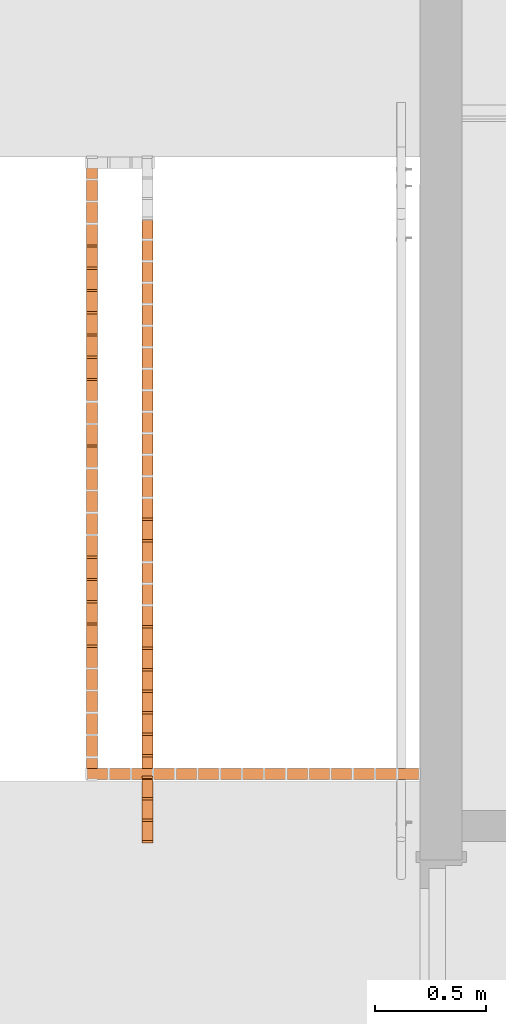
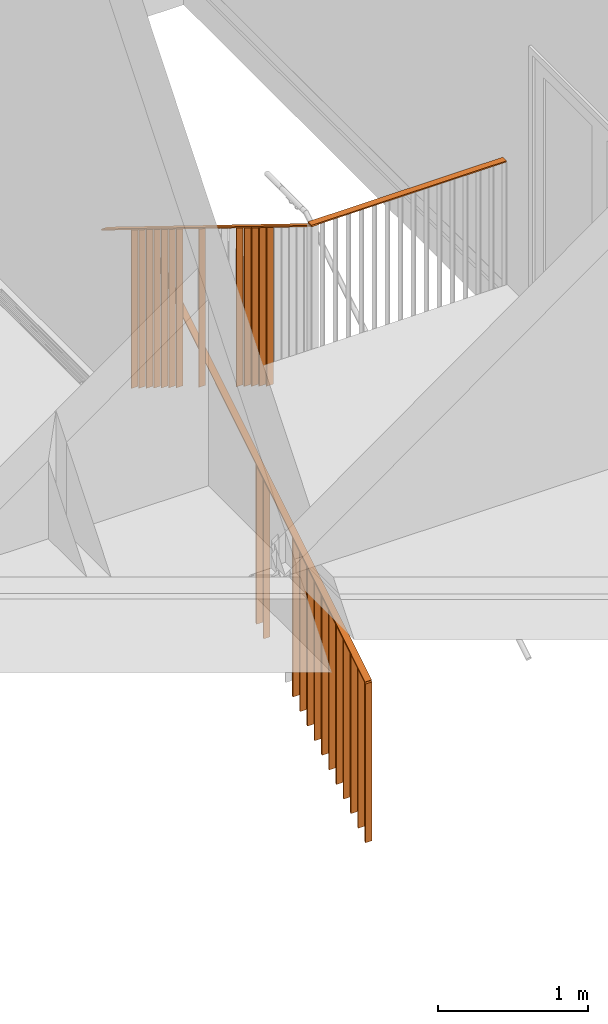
# One storey, part 91 of 100: 29 proxies, 3 elements without a shape of their own.
"""IFC2X3 building model written with IfcOpenShell, lengths in millimetres."""

from ifc_helpers import new_model, entity, si_unit, converted_unit, derived_unit, money_unit, direction, frame, origin_with_axes, place, context, subcontext, project, spatial, faceted_brep, material, type_object, element, aggregate, save


model = new_model("IFC2X3")

# Units and contexts
model_context = context("Model", 3, precision=0.01, world=origin_with_axes(), true_north=direction((0.0, 1.0)))
body_context = subcontext(model_context, "Body", "Model", "MODEL_VIEW")
ifc_project = project(units=[si_unit("LENGTHUNIT", "METRE", prefix="MILLI"), si_unit("AREAUNIT", "SQUARE_METRE"), si_unit("VOLUMEUNIT", "CUBIC_METRE"), converted_unit("PLANEANGLEUNIT", "DEGREE", entity("IfcPlaneAngleMeasure", 0.0174532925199), si_unit("PLANEANGLEUNIT", "RADIAN"), dimensions=[0, 0, 0, 0, 0, 0, 0]), si_unit("SOLIDANGLEUNIT", "STERADIAN"), money_unit("EUR"), converted_unit("TIMEUNIT", "Year", entity("IfcTimeMeasure", 31556926.0), si_unit("TIMEUNIT", "SECOND"), dimensions=[0, 0, 1, 0, 0, 0, 0]), si_unit("MASSUNIT", "GRAM", prefix="KILO"), si_unit("THERMODYNAMICTEMPERATUREUNIT", "DEGREE_CELSIUS"), si_unit("LUMINOUSINTENSITYUNIT", "LUMEN"), si_unit("ENERGYUNIT", "JOULE", prefix="MEGA"), derived_unit("THERMALCONDUCTANCEUNIT", [(si_unit("POWERUNIT", "WATT"), 1), (si_unit("LENGTHUNIT", "METRE"), -1), (si_unit("THERMODYNAMICTEMPERATUREUNIT", "KELVIN"), -1)]), derived_unit("SPECIFICHEATCAPACITYUNIT", [(si_unit("ENERGYUNIT", "JOULE"), 1), (si_unit("MASSUNIT", "GRAM", prefix="KILO"), -1), (si_unit("THERMODYNAMICTEMPERATUREUNIT", "KELVIN"), -1)]), derived_unit("MASSDENSITYUNIT", [(si_unit("MASSUNIT", "GRAM", prefix="KILO"), 1), (si_unit("VOLUMEUNIT", "CUBIC_METRE"), -1)])], contexts=[model_context])

# Site, building, storey
site_placement = place(None, origin_with_axes())
site = spatial("IfcSite", under=ifc_project, at=site_placement, Name="Politse- ja Piirivalveameti ning Päästeameti ühishoone", CompositionType="ELEMENT")
building_placement = place(site_placement, origin_with_axes())
building = spatial("IfcBuilding", under=site, at=building_placement, Name="Politse- ja Piirivalveameti ning Päästeameti ühishoone", CompositionType="ELEMENT")
storey_placement = place(building_placement, frame((0.0, 0.0, 3800.0), z_axis=(0.0, 0.0, 1.0), x_axis=(1.0, 0.0, 0.0)))
storey = spatial("IfcBuildingStorey", under=building, at=storey_placement, Name="Teine korrus", CompositionType="ELEMENT", Elevation=3800.0)

# Railing, proxies
railing_type = type_object("IfcRailingType", Name="Railing Type", PredefinedType="NOTDEFINED")
railing_1_placement = place(storey_placement, frame((61660.557259, 19348.024656, -3925.83291166), z_axis=(0.0, 0.0, 1.0), x_axis=(-1.0, 0.0, 0.0)))
railing_1 = element("IfcRailing", 1, at=railing_1_placement, inside=storey, type_object=railing_type, Name="TREPIPIIR 1", PredefinedType="NOTDEFINED")
ifc_material = material(Name="Teras - Konstruktsioon")
building_element_proxy_type = type_object("IfcBuildingElementProxyType", Name="IfcBuildingElementProxy", PredefinedType="NOTDEFINED")
proxy_1_placement = place(railing_1_placement, frame((25.0, 2928.0725728, 0.0), z_axis=(0.0, 0.0, 1.0), x_axis=(-1.0, 0.0, 0.0)))
proxy_1 = element("IfcBuildingElementProxy", 2, at=proxy_1_placement, type_object=building_element_proxy_type, material=ifc_material, Name="PIIRDE POST - 001", context=body_context, shape_type="Brep", body=[
    faceted_brep([(-25.0, -5.0, -3.08185890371), (25.0, -5.0, -3.08185890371), (25.0, -5.0, 1286.9181411), (-25.0, -5.0, 1286.9181411), (-25.0, 5.0, 3.08185890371), (25.0, 5.0, 3.08185890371), (25.0, 5.0, 1293.0818589), (-25.0, 5.0, 1293.0818589)], [[[0, 1, 2, 3]], [[0, 4, 5, 1]], [[1, 5, 6, 2]], [[3, 2, 6, 7]], [[4, 0, 3, 7]], [[5, 4, 7, 6]]]),
])
proxy_2_placement = place(railing_1_placement, frame((25.0, 1525.5725728, 1273.07417596), z_axis=(0.0, 0.0, 1.0), x_axis=(-1.0, 0.0, 0.0)))
proxy_2 = element("IfcBuildingElementProxy", 3, at=proxy_2_placement, type_object=building_element_proxy_type, material=ifc_material, Name="Piirde Ülaosa - 001", context=body_context, shape_type="Brep", body=[
    faceted_brep([(-25.0, 1402.5, 1755.84866902), (-25.0, 1407.74706821, 1747.33583898), (-25.0, -1397.25293179, 18.4129939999), (-25.0, -1402.5, 26.9258240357), (25.0, 1402.5, 1755.84866902), (25.0, 1407.74706821, 1747.33583898), (25.0, -1397.25293179, 18.4129939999), (25.0, -1402.5, 26.9258240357)], [[[0, 1, 2, 3]], [[0, 4, 5, 1]], [[1, 5, 6, 2]], [[3, 2, 6, 7]], [[4, 0, 3, 7]], [[5, 4, 7, 6]]]),
])
proxy_3_placement = place(railing_1_placement, frame((25.0, 1477.21050384, 894.270424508), z_axis=(0.0, 0.0, 1.0), x_axis=(-1.0, 0.0, 0.0)))
proxy_3 = element("IfcBuildingElementProxy", 4, at=proxy_3_placement, type_object=building_element_proxy_type, material=ifc_material, Name="BALUSTER - 001", context=body_context, shape_type="Brep", body=[
    faceted_brep([(-25.0, -5.0, -3.08185890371), (25.0, -5.0, -3.08185890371), (25.0, -5.0, 1286.91815365), (-25.0, -5.0, 1286.91815365), (-25.0, 5.0, 3.08185890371), (25.0, 5.0, 3.08185890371), (25.0, 5.0, 1293.08187146), (-25.0, 5.0, 1293.08187146)], [[[0, 1, 2, 3]], [[0, 4, 5, 1]], [[1, 5, 6, 2]], [[3, 2, 6, 7]], [[4, 0, 3, 7]], [[5, 4, 7, 6]]]),
])
proxy_4_placement = place(railing_1_placement, frame((25.0, 1573.93464177, 834.65239537), z_axis=(0.0, 0.0, 1.0), x_axis=(-1.0, 0.0, 0.0)))
proxy_4 = element("IfcBuildingElementProxy", 5, at=proxy_4_placement, type_object=building_element_proxy_type, material=ifc_material, Name="BALUSTER - 001", context=body_context, shape_type="Brep", body=[
    faceted_brep([(-25.0, -5.0, -3.08185890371), (25.0, -5.0, -3.08185890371), (25.0, -5.0, 1286.91815365), (-25.0, -5.0, 1286.91815365), (-25.0, 5.0, 3.08185890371), (25.0, 5.0, 3.08185890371), (25.0, 5.0, 1293.08187146), (-25.0, 5.0, 1293.08187146)], [[[0, 1, 2, 3]], [[0, 4, 5, 1]], [[1, 5, 6, 2]], [[3, 2, 6, 7]], [[4, 0, 3, 7]], [[5, 4, 7, 6]]]),
])
proxy_5_placement = place(railing_1_placement, frame((25.0, 1960.83119349, 596.180278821), z_axis=(0.0, 0.0, 1.0), x_axis=(-1.0, 0.0, 0.0)))
proxy_5 = element("IfcBuildingElementProxy", 6, at=proxy_5_placement, type_object=building_element_proxy_type, material=ifc_material, Name="BALUSTER - 001", context=body_context, shape_type="Brep", body=[
    faceted_brep([(-25.0, -5.0, -3.08185890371), (25.0, -5.0, -3.08185890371), (25.0, -5.0, 1286.91815365), (-25.0, -5.0, 1286.91815365), (-25.0, 5.0, 3.08185890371), (25.0, 5.0, 3.08185890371), (25.0, 5.0, 1293.08187146), (-25.0, 5.0, 1293.08187146)], [[[0, 1, 2, 3]], [[0, 4, 5, 1]], [[1, 5, 6, 2]], [[3, 2, 6, 7]], [[4, 0, 3, 7]], [[5, 4, 7, 6]]]),
])
proxy_6_placement = place(railing_1_placement, frame((25.0, 2057.55533143, 536.562249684), z_axis=(0.0, 0.0, 1.0), x_axis=(-1.0, 0.0, 0.0)))
proxy_6 = element("IfcBuildingElementProxy", 7, at=proxy_6_placement, type_object=building_element_proxy_type, material=ifc_material, Name="BALUSTER - 001", context=body_context, shape_type="Brep", body=[
    faceted_brep([(-25.0, -5.0, -3.08185890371), (25.0, -5.0, -3.08185890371), (25.0, -5.0, 1286.91815365), (-25.0, -5.0, 1286.91815365), (-25.0, 5.0, 3.08185890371), (25.0, 5.0, 3.08185890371), (25.0, 5.0, 1293.08187146), (-25.0, 5.0, 1293.08187146)], [[[0, 1, 2, 3]], [[0, 4, 5, 1]], [[1, 5, 6, 2]], [[3, 2, 6, 7]], [[4, 0, 3, 7]], [[5, 4, 7, 6]]]),
])
proxy_7_placement = place(railing_1_placement, frame((25.0, 2154.27946936, 476.944220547), z_axis=(0.0, 0.0, 1.0), x_axis=(-1.0, 0.0, 0.0)))
proxy_7 = element("IfcBuildingElementProxy", 8, at=proxy_7_placement, type_object=building_element_proxy_type, material=ifc_material, Name="BALUSTER - 001", context=body_context, shape_type="Brep", body=[
    faceted_brep([(-25.0, -5.0, -3.08185890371), (25.0, -5.0, -3.08185890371), (25.0, -5.0, 1286.91815365), (-25.0, -5.0, 1286.91815365), (-25.0, 5.0, 3.08185890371), (25.0, 5.0, 3.08185890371), (25.0, 5.0, 1293.08187146), (-25.0, 5.0, 1293.08187146)], [[[0, 1, 2, 3]], [[0, 4, 5, 1]], [[1, 5, 6, 2]], [[3, 2, 6, 7]], [[4, 0, 3, 7]], [[5, 4, 7, 6]]]),
])
proxy_8_placement = place(railing_1_placement, frame((25.0, 2251.00360729, 417.326191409), z_axis=(0.0, 0.0, 1.0), x_axis=(-1.0, 0.0, 0.0)))
proxy_8 = element("IfcBuildingElementProxy", 9, at=proxy_8_placement, type_object=building_element_proxy_type, material=ifc_material, Name="BALUSTER - 001", context=body_context, shape_type="Brep", body=[
    faceted_brep([(-25.0, -5.0, -3.08185890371), (25.0, -5.0, -3.08185890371), (25.0, -5.0, 1286.91815365), (-25.0, -5.0, 1286.91815365), (-25.0, 5.0, 3.08185890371), (25.0, 5.0, 3.08185890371), (25.0, 5.0, 1293.08187146), (-25.0, 5.0, 1293.08187146)], [[[0, 1, 2, 3]], [[0, 4, 5, 1]], [[1, 5, 6, 2]], [[3, 2, 6, 7]], [[4, 0, 3, 7]], [[5, 4, 7, 6]]]),
])
proxy_9_placement = place(railing_1_placement, frame((25.0, 2347.72774522, 357.708162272), z_axis=(0.0, 0.0, 1.0), x_axis=(-1.0, 0.0, 0.0)))
proxy_9 = element("IfcBuildingElementProxy", 10, at=proxy_9_placement, type_object=building_element_proxy_type, material=ifc_material, Name="BALUSTER - 001", context=body_context, shape_type="Brep", body=[
    faceted_brep([(-25.0, -5.0, -3.08185890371), (25.0, -5.0, -3.08185890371), (25.0, -5.0, 1286.91815365), (-25.0, -5.0, 1286.91815365), (-25.0, 5.0, 3.08185890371), (25.0, 5.0, 3.08185890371), (25.0, 5.0, 1293.08187146), (-25.0, 5.0, 1293.08187146)], [[[0, 1, 2, 3]], [[0, 4, 5, 1]], [[1, 5, 6, 2]], [[3, 2, 6, 7]], [[4, 0, 3, 7]], [[5, 4, 7, 6]]]),
])
proxy_10_placement = place(railing_1_placement, frame((25.0, 2444.45188315, 298.090133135), z_axis=(0.0, 0.0, 1.0), x_axis=(-1.0, 0.0, 0.0)))
proxy_10 = element("IfcBuildingElementProxy", 11, at=proxy_10_placement, type_object=building_element_proxy_type, material=ifc_material, Name="BALUSTER - 001", context=body_context, shape_type="Brep", body=[
    faceted_brep([(-25.0, -5.0, -3.08185890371), (25.0, -5.0, -3.08185890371), (25.0, -5.0, 1286.91815365), (-25.0, -5.0, 1286.91815365), (-25.0, 5.0, 3.08185890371), (25.0, 5.0, 3.08185890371), (25.0, 5.0, 1293.08187146), (-25.0, 5.0, 1293.08187146)], [[[0, 1, 2, 3]], [[0, 4, 5, 1]], [[1, 5, 6, 2]], [[3, 2, 6, 7]], [[4, 0, 3, 7]], [[5, 4, 7, 6]]]),
])
proxy_11_placement = place(railing_1_placement, frame((25.0, 2541.17602108, 238.472103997), z_axis=(0.0, 0.0, 1.0), x_axis=(-1.0, 0.0, 0.0)))
proxy_11 = element("IfcBuildingElementProxy", 12, at=proxy_11_placement, type_object=building_element_proxy_type, material=ifc_material, Name="BALUSTER - 001", context=body_context, shape_type="Brep", body=[
    faceted_brep([(-25.0, -5.0, -3.08185890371), (25.0, -5.0, -3.08185890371), (25.0, -5.0, 1286.91815365), (-25.0, -5.0, 1286.91815365), (-25.0, 5.0, 3.08185890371), (25.0, 5.0, 3.08185890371), (25.0, 5.0, 1293.08187146), (-25.0, 5.0, 1293.08187146)], [[[0, 1, 2, 3]], [[0, 4, 5, 1]], [[1, 5, 6, 2]], [[3, 2, 6, 7]], [[4, 0, 3, 7]], [[5, 4, 7, 6]]]),
])
proxy_12_placement = place(railing_1_placement, frame((25.0, 2637.90015901, 178.85407486), z_axis=(0.0, 0.0, 1.0), x_axis=(-1.0, 0.0, 0.0)))
proxy_12 = element("IfcBuildingElementProxy", 13, at=proxy_12_placement, type_object=building_element_proxy_type, material=ifc_material, Name="BALUSTER - 001", context=body_context, shape_type="Brep", body=[
    faceted_brep([(-25.0, -5.0, -3.08185890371), (25.0, -5.0, -3.08185890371), (25.0, -5.0, 1286.91815365), (-25.0, -5.0, 1286.91815365), (-25.0, 5.0, 3.08185890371), (25.0, 5.0, 3.08185890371), (25.0, 5.0, 1293.08187146), (-25.0, 5.0, 1293.08187146)], [[[0, 1, 2, 3]], [[0, 4, 5, 1]], [[1, 5, 6, 2]], [[3, 2, 6, 7]], [[4, 0, 3, 7]], [[5, 4, 7, 6]]]),
])
proxy_13_placement = place(railing_1_placement, frame((25.0, 2734.62429694, 119.236045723), z_axis=(0.0, 0.0, 1.0), x_axis=(-1.0, 0.0, 0.0)))
proxy_13 = element("IfcBuildingElementProxy", 14, at=proxy_13_placement, type_object=building_element_proxy_type, material=ifc_material, Name="BALUSTER - 001", context=body_context, shape_type="Brep", body=[
    faceted_brep([(-25.0, -5.0, -3.08185890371), (25.0, -5.0, -3.08185890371), (25.0, -5.0, 1286.91815365), (-25.0, -5.0, 1286.91815365), (-25.0, 5.0, 3.08185890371), (25.0, 5.0, 3.08185890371), (25.0, 5.0, 1293.08187146), (-25.0, 5.0, 1293.08187146)], [[[0, 1, 2, 3]], [[0, 4, 5, 1]], [[1, 5, 6, 2]], [[3, 2, 6, 7]], [[4, 0, 3, 7]], [[5, 4, 7, 6]]]),
])
proxy_14_placement = place(railing_1_placement, frame((25.0, 2831.34843487, 59.6180165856), z_axis=(0.0, 0.0, 1.0), x_axis=(-1.0, 0.0, 0.0)))
proxy_14 = element("IfcBuildingElementProxy", 15, at=proxy_14_placement, type_object=building_element_proxy_type, material=ifc_material, Name="BALUSTER - 001", context=body_context, shape_type="Brep", body=[
    faceted_brep([(-25.0, -5.0, -3.08185890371), (25.0, -5.0, -3.08185890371), (25.0, -5.0, 1286.91815365), (-25.0, -5.0, 1286.91815365), (-25.0, 5.0, 3.08185890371), (25.0, 5.0, 3.08185890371), (25.0, 5.0, 1293.08187146), (-25.0, 5.0, 1293.08187146)], [[[0, 1, 2, 3]], [[0, 4, 5, 1]], [[1, 5, 6, 2]], [[3, 2, 6, 7]], [[4, 0, 3, 7]], [[5, 4, 7, 6]]]),
])
aggregate(railing_1, [proxy_1, proxy_2, proxy_3, proxy_4, proxy_5, proxy_6, proxy_7, proxy_8, proxy_9, proxy_10, proxy_11, proxy_12, proxy_13, proxy_14])

railing_2_placement = place(storey_placement, frame((61360.5519118, 16576.8795104, -2027.27275421), z_axis=(0.0, 0.0, 1.0), x_axis=(1.0, 0.0, 0.0)))
railing_2 = element("IfcRailing", 16, at=railing_2_placement, inside=storey, type_object=railing_type, Name="TREPIPIIRE 4", PredefinedType="NOTDEFINED")
proxy_15_placement = place(railing_2_placement, frame((25.0, 1523.0725728, 1273.07417596), z_axis=(0.0, 0.0, 1.0), x_axis=(1.0, 0.0, 0.0)))
proxy_15 = element("IfcBuildingElementProxy", 17, at=proxy_15_placement, type_object=building_element_proxy_type, material=ifc_material, Name="Piirde Ülaosa - 001", context=body_context, shape_type="Brep", body=[
    faceted_brep([(25.0, -1400.0, 1754.19855131), (25.0, -1405.25022161, 1745.68766575), (25.0, 1394.74977839, 18.4149384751), (25.0, 1400.0, 26.9258240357), (-25.0, -1400.0, 1754.19855131), (-25.0, -1405.25022161, 1745.68766575), (-25.0, 1394.74977839, 18.4149384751), (-25.0, 1400.0, 26.9258240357)], [[[0, 1, 2, 3]], [[0, 4, 5, 1]], [[1, 5, 6, 2]], [[3, 2, 6, 7]], [[4, 0, 3, 7]], [[5, 4, 7, 6]]]),
])
proxy_16_placement = place(railing_2_placement, frame((25.0, 723.072572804, 1357.14284459), z_axis=(0.0, 0.0, 1.0), x_axis=(1.0, 0.0, 0.0)))
proxy_16 = element("IfcBuildingElementProxy", 18, at=proxy_16_placement, type_object=building_element_proxy_type, material=ifc_material, Name="BALUSTER - 001", context=body_context, shape_type="Brep", body=[
    faceted_brep([(25.0, 5.0, -3.08441558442), (-25.0, 5.0, -3.08441558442), (-25.0, 5.0, 1286.91559697), (25.0, 5.0, 1286.91559697), (25.0, -5.0, 3.08441558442), (-25.0, -5.0, 3.08441558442), (-25.0, -5.0, 1293.08442814), (25.0, -5.0, 1293.08442814)], [[[0, 1, 2, 3]], [[0, 4, 5, 1]], [[1, 5, 6, 2]], [[3, 2, 6, 7]], [[4, 0, 3, 7]], [[5, 4, 7, 6]]]),
])
proxy_17_placement = place(railing_2_placement, frame((25.0, 823.072572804, 1295.4545329), z_axis=(0.0, 0.0, 1.0), x_axis=(1.0, 0.0, 0.0)))
proxy_17 = element("IfcBuildingElementProxy", 19, at=proxy_17_placement, type_object=building_element_proxy_type, material=ifc_material, Name="BALUSTER - 001", context=body_context, shape_type="Brep", body=[
    faceted_brep([(25.0, 5.0, -3.08441558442), (-25.0, 5.0, -3.08441558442), (-25.0, 5.0, 1286.91559697), (25.0, 5.0, 1286.91559697), (25.0, -5.0, 3.08441558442), (-25.0, -5.0, 3.08441558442), (-25.0, -5.0, 1293.08442814), (25.0, -5.0, 1293.08442814)], [[[0, 1, 2, 3]], [[0, 4, 5, 1]], [[1, 5, 6, 2]], [[3, 2, 6, 7]], [[4, 0, 3, 7]], [[5, 4, 7, 6]]]),
])
proxy_18_placement = place(railing_2_placement, frame((25.0, 923.072572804, 1233.76622121), z_axis=(0.0, 0.0, 1.0), x_axis=(1.0, 0.0, 0.0)))
proxy_18 = element("IfcBuildingElementProxy", 20, at=proxy_18_placement, type_object=building_element_proxy_type, material=ifc_material, Name="BALUSTER - 001", context=body_context, shape_type="Brep", body=[
    faceted_brep([(25.0, 5.0, -3.08441558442), (-25.0, 5.0, -3.08441558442), (-25.0, 5.0, 1286.91559697), (25.0, 5.0, 1286.91559697), (25.0, -5.0, 3.08441558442), (-25.0, -5.0, 3.08441558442), (-25.0, -5.0, 1293.08442814), (25.0, -5.0, 1293.08442814)], [[[0, 1, 2, 3]], [[0, 4, 5, 1]], [[1, 5, 6, 2]], [[3, 2, 6, 7]], [[4, 0, 3, 7]], [[5, 4, 7, 6]]]),
])
proxy_19_placement = place(railing_2_placement, frame((25.0, 1023.0725728, 1172.07790953), z_axis=(0.0, 0.0, 1.0), x_axis=(1.0, 0.0, 0.0)))
proxy_19 = element("IfcBuildingElementProxy", 21, at=proxy_19_placement, type_object=building_element_proxy_type, material=ifc_material, Name="BALUSTER - 001", context=body_context, shape_type="Brep", body=[
    faceted_brep([(25.0, 5.0, -3.08441558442), (-25.0, 5.0, -3.08441558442), (-25.0, 5.0, 1286.91559697), (25.0, 5.0, 1286.91559697), (25.0, -5.0, 3.08441558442), (-25.0, -5.0, 3.08441558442), (-25.0, -5.0, 1293.08442814), (25.0, -5.0, 1293.08442814)], [[[0, 1, 2, 3]], [[0, 4, 5, 1]], [[1, 5, 6, 2]], [[3, 2, 6, 7]], [[4, 0, 3, 7]], [[5, 4, 7, 6]]]),
])
proxy_20_placement = place(railing_2_placement, frame((25.0, 1123.0725728, 1110.38959784), z_axis=(0.0, 0.0, 1.0), x_axis=(1.0, 0.0, 0.0)))
proxy_20 = element("IfcBuildingElementProxy", 22, at=proxy_20_placement, type_object=building_element_proxy_type, material=ifc_material, Name="BALUSTER - 001", context=body_context, shape_type="Brep", body=[
    faceted_brep([(25.0, 5.0, -3.08441558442), (-25.0, 5.0, -3.08441558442), (-25.0, 4.99999999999, 1286.91559697), (25.0, 4.99999999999, 1286.91559697), (25.0, -5.0, 3.08441558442), (-25.0, -5.0, 3.08441558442), (-25.0, -5.00000000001, 1293.08442814), (25.0, -5.00000000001, 1293.08442814)], [[[0, 1, 2, 3]], [[0, 4, 5, 1]], [[1, 5, 6, 2]], [[3, 2, 6, 7]], [[4, 0, 3, 7]], [[5, 4, 7, 6]]]),
])
proxy_21_placement = place(railing_2_placement, frame((25.0, 1623.0725728, 801.948039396), z_axis=(0.0, 0.0, 1.0), x_axis=(1.0, 0.0, 0.0)))
proxy_21 = element("IfcBuildingElementProxy", 23, at=proxy_21_placement, type_object=building_element_proxy_type, material=ifc_material, Name="BALUSTER - 001", context=body_context, shape_type="Brep", body=[
    faceted_brep([(25.0, 5.0, -3.08441558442), (-25.0, 5.0, -3.08441558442), (-25.0, 5.0, 1286.91559697), (25.0, 5.0, 1286.91559697), (25.0, -5.0, 3.08441558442), (-25.0, -5.0, 3.08441558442), (-25.0, -5.0, 1293.08442814), (25.0, -5.0, 1293.08442814)], [[[0, 1, 2, 3]], [[0, 4, 5, 1]], [[1, 5, 6, 2]], [[3, 2, 6, 7]], [[4, 0, 3, 7]], [[5, 4, 7, 6]]]),
])
proxy_22_placement = place(railing_2_placement, frame((25.0, 1923.0725728, 616.883104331), z_axis=(0.0, 0.0, 1.0), x_axis=(1.0, 0.0, 0.0)))
proxy_22 = element("IfcBuildingElementProxy", 24, at=proxy_22_placement, type_object=building_element_proxy_type, material=ifc_material, Name="BALUSTER - 001", context=body_context, shape_type="Brep", body=[
    faceted_brep([(25.0, 5.0, -3.08441558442), (-25.0, 5.0, -3.08441558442), (-25.0, 5.0, 1286.91559697), (25.0, 5.0, 1286.91559697), (25.0, -5.0, 3.08441558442), (-25.0, -5.0, 3.08441558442), (-25.0, -5.0, 1293.08442814), (25.0, -5.0, 1293.08442814)], [[[0, 1, 2, 3]], [[0, 4, 5, 1]], [[1, 5, 6, 2]], [[3, 2, 6, 7]], [[4, 0, 3, 7]], [[5, 4, 7, 6]]]),
])
proxy_23_placement = place(railing_2_placement, frame((25.0, 2023.0725728, 555.194792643), z_axis=(0.0, 0.0, 1.0), x_axis=(1.0, 0.0, 0.0)))
proxy_23 = element("IfcBuildingElementProxy", 25, at=proxy_23_placement, type_object=building_element_proxy_type, material=ifc_material, Name="BALUSTER - 001", context=body_context, shape_type="Brep", body=[
    faceted_brep([(25.0, 5.0, -3.08441558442), (-25.0, 5.0, -3.08441558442), (-25.0, 5.0, 1286.91559697), (25.0, 5.0, 1286.91559697), (25.0, -5.0, 3.08441558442), (-25.0, -5.0, 3.08441558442), (-25.0, -5.0, 1293.08442814), (25.0, -5.0, 1293.08442814)], [[[0, 1, 2, 3]], [[0, 4, 5, 1]], [[1, 5, 6, 2]], [[3, 2, 6, 7]], [[4, 0, 3, 7]], [[5, 4, 7, 6]]]),
])
proxy_24_placement = place(railing_2_placement, frame((25.0, 2123.0725728, 493.506480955), z_axis=(0.0, 0.0, 1.0), x_axis=(1.0, 0.0, 0.0)))
proxy_24 = element("IfcBuildingElementProxy", 26, at=proxy_24_placement, type_object=building_element_proxy_type, material=ifc_material, Name="BALUSTER - 001", context=body_context, shape_type="Brep", body=[
    faceted_brep([(25.0, 5.0, -3.08441558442), (-25.0, 5.0, -3.08441558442), (-25.0, 5.0, 1286.91559697), (25.0, 5.0, 1286.91559697), (25.0, -5.0, 3.08441558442), (-25.0, -5.0, 3.08441558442), (-25.0, -5.0, 1293.08442814), (25.0, -5.0, 1293.08442814)], [[[0, 1, 2, 3]], [[0, 4, 5, 1]], [[1, 5, 6, 2]], [[3, 2, 6, 7]], [[4, 0, 3, 7]], [[5, 4, 7, 6]]]),
])
proxy_25_placement = place(railing_2_placement, frame((25.0, 2223.0725728, 431.818169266), z_axis=(0.0, 0.0, 1.0), x_axis=(1.0, 0.0, 0.0)))
proxy_25 = element("IfcBuildingElementProxy", 27, at=proxy_25_placement, type_object=building_element_proxy_type, material=ifc_material, Name="BALUSTER - 001", context=body_context, shape_type="Brep", body=[
    faceted_brep([(25.0, 5.0, -3.08441558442), (-25.0, 5.0, -3.08441558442), (-25.0, 5.0, 1286.91559697), (25.0, 5.0, 1286.91559697), (25.0, -5.0, 3.08441558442), (-25.0, -5.0, 3.08441558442), (-25.0, -5.0, 1293.08442814), (25.0, -5.0, 1293.08442814)], [[[0, 1, 2, 3]], [[0, 4, 5, 1]], [[1, 5, 6, 2]], [[3, 2, 6, 7]], [[4, 0, 3, 7]], [[5, 4, 7, 6]]]),
])
proxy_26_placement = place(railing_2_placement, frame((25.0, 2323.0725728, 370.129857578), z_axis=(0.0, 0.0, 1.0), x_axis=(1.0, 0.0, 0.0)))
proxy_26 = element("IfcBuildingElementProxy", 28, at=proxy_26_placement, type_object=building_element_proxy_type, material=ifc_material, Name="BALUSTER - 001", context=body_context, shape_type="Brep", body=[
    faceted_brep([(25.0, 5.0, -3.08441558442), (-25.0, 5.0, -3.08441558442), (-25.0, 5.0, 1286.91559697), (25.0, 5.0, 1286.91559697), (25.0, -5.0, 3.08441558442), (-25.0, -5.0, 3.08441558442), (-25.0, -5.0, 1293.08442814), (25.0, -5.0, 1293.08442814)], [[[0, 1, 2, 3]], [[0, 4, 5, 1]], [[1, 5, 6, 2]], [[3, 2, 6, 7]], [[4, 0, 3, 7]], [[5, 4, 7, 6]]]),
])
proxy_27_placement = place(railing_2_placement, frame((25.0, 2423.0725728, 308.44154589), z_axis=(0.0, 0.0, 1.0), x_axis=(1.0, 0.0, 0.0)))
proxy_27 = element("IfcBuildingElementProxy", 29, at=proxy_27_placement, type_object=building_element_proxy_type, material=ifc_material, Name="BALUSTER - 001", context=body_context, shape_type="Brep", body=[
    faceted_brep([(25.0, 5.0, -3.08441558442), (-25.0, 5.0, -3.08441558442), (-25.0, 5.0, 1286.91559697), (25.0, 5.0, 1286.91559697), (25.0, -5.0, 3.08441558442), (-25.0, -5.0, 3.08441558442), (-25.0, -5.0, 1293.08442814), (25.0, -5.0, 1293.08442814)], [[[0, 1, 2, 3]], [[0, 4, 5, 1]], [[1, 5, 6, 2]], [[3, 2, 6, 7]], [[4, 0, 3, 7]], [[5, 4, 7, 6]]]),
])
proxy_28_placement = place(railing_2_placement, frame((25.0, 2523.0725728, 246.753234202), z_axis=(0.0, 0.0, 1.0), x_axis=(1.0, 0.0, 0.0)))
proxy_28 = element("IfcBuildingElementProxy", 30, at=proxy_28_placement, type_object=building_element_proxy_type, material=ifc_material, Name="BALUSTER - 001", context=body_context, shape_type="Brep", body=[
    faceted_brep([(25.0, 5.0, -3.08441558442), (-25.0, 5.0, -3.08441558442), (-25.0, 5.0, 1286.91559697), (25.0, 5.0, 1286.91559697), (25.0, -5.0, 3.08441558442), (-25.0, -5.0, 3.08441558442), (-25.0, -5.0, 1293.08442814), (25.0, -5.0, 1293.08442814)], [[[0, 1, 2, 3]], [[0, 4, 5, 1]], [[1, 5, 6, 2]], [[3, 2, 6, 7]], [[4, 0, 3, 7]], [[5, 4, 7, 6]]]),
])
aggregate(railing_2, [proxy_15, proxy_16, proxy_17, proxy_18, proxy_19, proxy_20, proxy_21, proxy_22, proxy_23, proxy_24, proxy_25, proxy_26, proxy_27, proxy_28])

# Railing, proxy
railing_3_placement = place(storey_placement, frame((64283.6244846, 16699.9520832, -300.000026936), z_axis=(0.0, 0.0, 1.0), x_axis=(0.0, 1.0, 0.0)))
railing_3 = element("IfcRailing", 31, at=railing_3_placement, inside=storey, type_object=railing_type, Name="TREPIPIIRE 5", PredefinedType="NOTDEFINED")
proxy_29_placement = place(railing_3_placement, frame((25.0, 2174.41185852, 1273.07417596), z_axis=(0.0, 0.0, 1.0), x_axis=(0.0, -1.0, 0.0)))
proxy_29 = element("IfcBuildingElementProxy", 32, at=proxy_29_placement, type_object=building_element_proxy_type, material=ifc_material, Name="Piirde Ülaosa - 001", context=body_context, shape_type="Brep", body=[
    faceted_brep([(748.660714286, 25.0, 26.9258240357), (748.660714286, 25.0, 16.9258240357), (-748.660714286, 25.0, 16.9258240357), (-748.660714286, 25.0, 26.9258240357), (748.660714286, -25.0, 26.9258240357), (748.660714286, -25.0, 16.9258240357), (-748.660714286, -25.0, 16.9258240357), (-748.660714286, -25.0, 26.9258240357)], [[[0, 1, 2, 3]], [[0, 4, 5, 1]], [[1, 5, 6, 2]], [[3, 2, 6, 7]], [[4, 0, 3, 7]], [[5, 4, 7, 6]]]),
])
aggregate(railing_3, [proxy_29])

save(model, "model.ifc")
